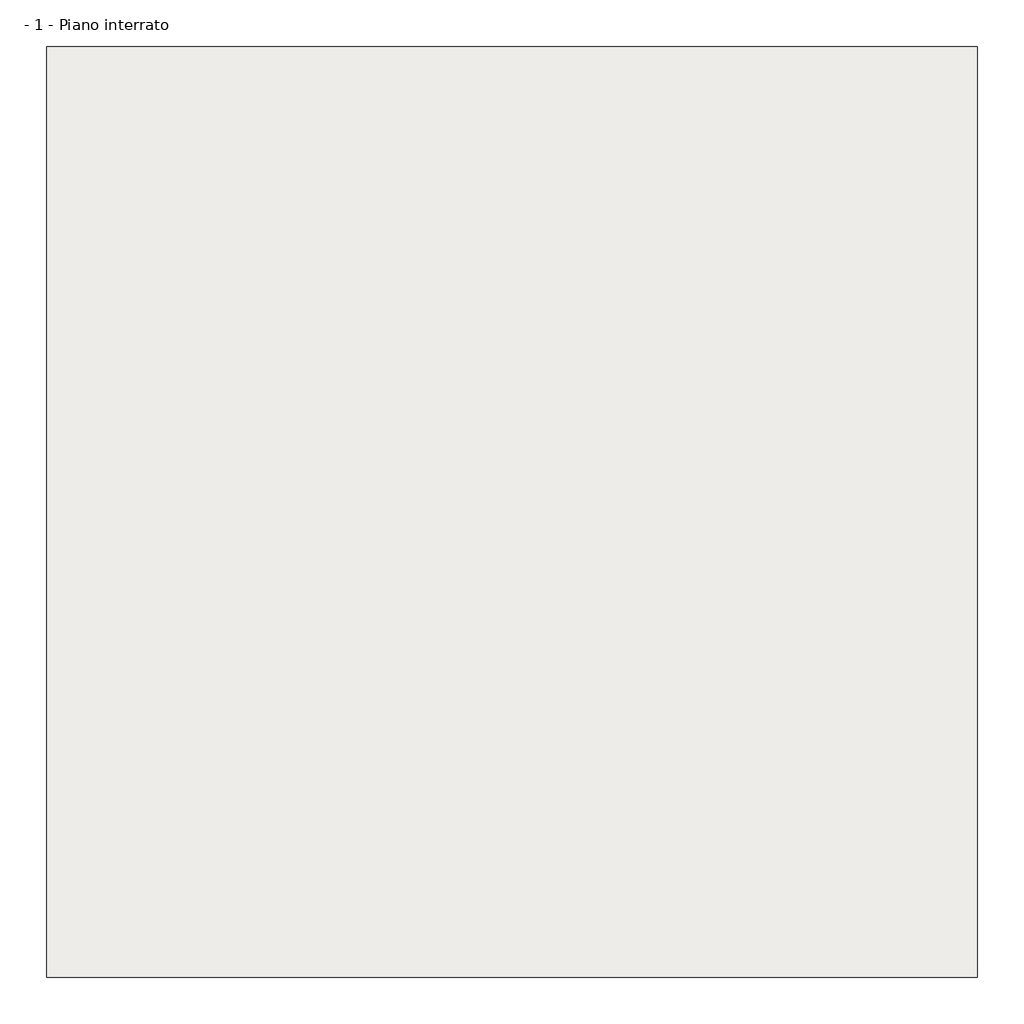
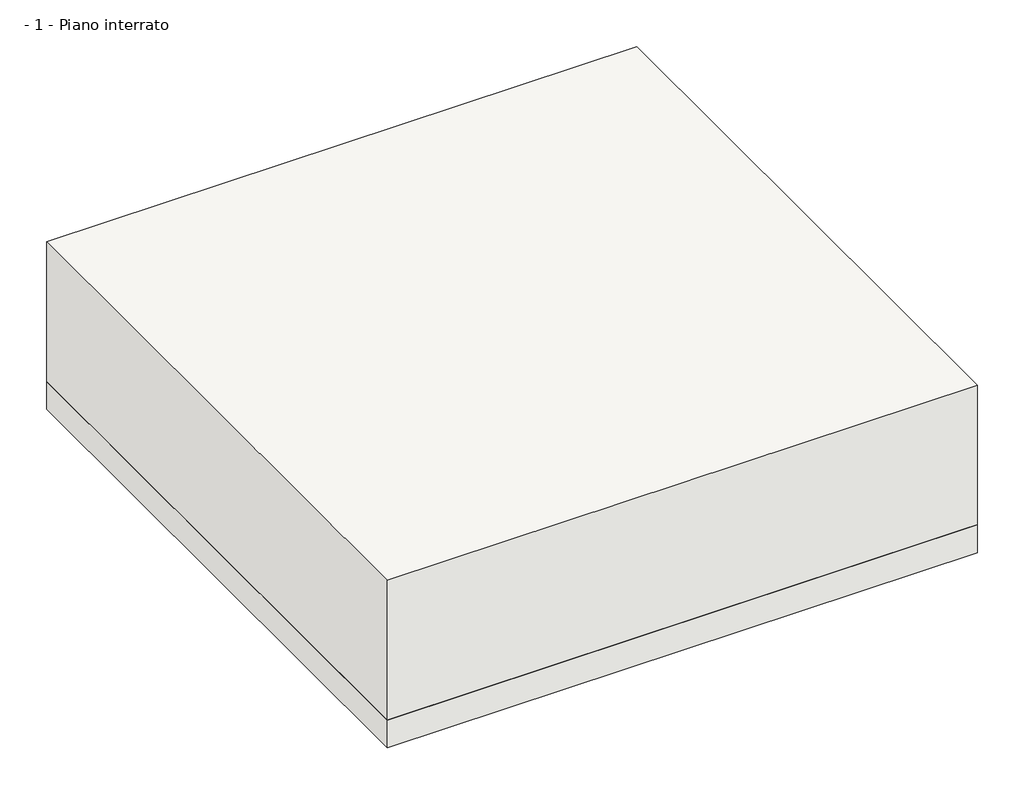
# One storey: 2 slabs.
"""IFC4 building model written with IfcOpenShell, lengths in millimetres."""

from ifc_helpers import new_model, si_unit, point, frame, frame_2d, origin, place, context, project, spatial, polyline, circle_curve, trimmed, segment, composite_curve, outline, extrude, element, save

model = new_model("IFC4")

# Units and contexts
model_context = context("Model", 3, world=origin())
ifc_project = project(units=[si_unit("LENGTHUNIT", "METRE", prefix="MILLI")], contexts=[model_context])

# Site, building, storey
site = spatial("IfcSite", under=ifc_project)
building = spatial("IfcBuilding", under=site)
storey = spatial("IfcBuildingStorey", under=building, Name="- 1 - Piano interrato", Elevation=-2500.0)

# Slabs
placement = place(None, origin())
element("IfcSlab", 1, ObjectType="Magrone - 10 cm", at=placement, inside=storey, context=model_context, shape_type="SweptSolid", body=[
    extrude(outline(polyline([(1747.3707384, -15630.7761472), (-252.6292616, -15630.7761472), (-252.6292616, -13630.7761472), (1747.3707384, -13630.7761472), (1747.3707384, -15630.7761472)]), holes=[composite_curve([segment(trimmed(circle_curve(frame_2d((747.6847794, -14630.9443695)), 5.0), [point((752.6847794, -14630.9443695))], [point((742.6847794, -14630.9443695))], True, "CARTESIAN"), True, "CONTINUOUS"), segment(trimmed(circle_curve(frame_2d((747.6847794, -14630.9443695)), 5.0), [point((742.6847794, -14630.9443695))], [point((752.6847794, -14630.9443695))], True, "CARTESIAN"), True, "CONTINUOUS")], self_intersect=False)]), frame((0.0, 0.0, -3100.0), z_axis=(0.0, 0.0, 1.0), x_axis=(1.0, 0.0, 0.0)), (0.0, 0.0, 1.0), 100.0),
])
element("IfcSlab", 2, ObjectType="Platea - 50 cm", at=placement, inside=storey, context=model_context, shape_type="SweptSolid", body=[
    extrude(outline(polyline([(1747.3707384, -13630.7761472), (1747.3707384, -15630.7761472), (-252.6292616, -15630.7761472), (-252.6292616, -13630.7761472), (1747.3707384, -13630.7761472)])), frame((0.0, 0.0, -3000.0), z_axis=(0.0, 0.0, 1.0), x_axis=(1.0, 0.0, 0.0)), (0.0, 0.0, 1.0), 500.0),
])

save(model, "model.ifc")
